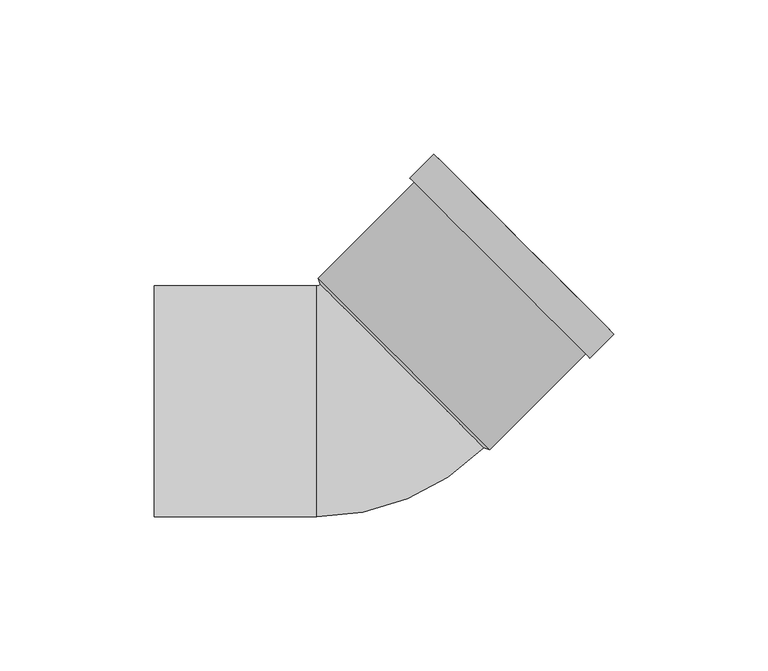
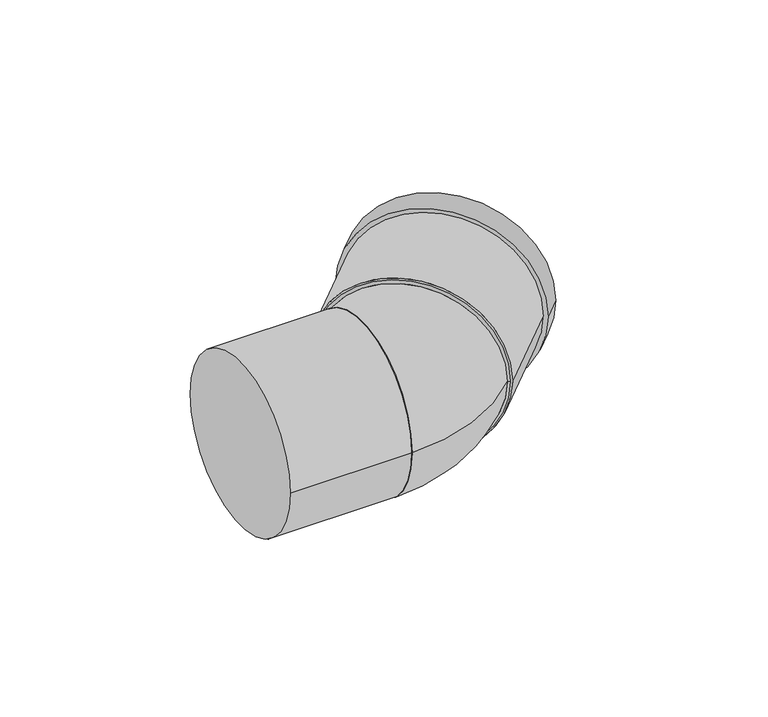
"""IFC4 building model written with IfcOpenShell, lengths in millimetres: pipe fitting geometry, Superdrain HT bend : Superdrain HT Bend."""

from ifc_helpers import new_model, si_unit, point, frame, origin, origin_2d, place, context, project, spatial, polyline, circle_curve, ellipse_curve, trimmed, segment, composite_curve, outline, extrude, source, transform, mapped, element, save
from ifc_brep_helpers import plane_surface, revolved_surface, advanced_brep


def pipe_fitting_4065f76d(model_context):
    return source(origin(), model_context, "Body", "SolidModel", [
        advanced_brep(
        [(37.9716341, -15.0613744, 0.0), (-15.0613744, 37.9716341, 0.0), (-16.2, -37.5, 0.0), (-16.2, 37.5, 0.0)],
        [
            (0, 1, circle_curve(frame((11.4551299, 11.4551299, 0.0), z_axis=(0.7071067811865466, 0.7071067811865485, 0.0), x_axis=(-0.7071067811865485, 0.7071067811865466, 0.0)), 37.5)),
            (1, 0, circle_curve(frame((11.4551299, 11.4551299, 0.0), z_axis=(0.7071067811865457, 0.7071067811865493, 0.0), x_axis=(-0.7071067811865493, 0.7071067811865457, 0.0)), 37.5)),
            (2, 3, circle_curve(frame((-16.2, 0.0, 0.0), z_axis=(-1.0, 0.0, 0.0), x_axis=(0.0, 1.0, 0.0)), 37.5)),
            (3, 2, circle_curve(frame((-16.2, 0.0, 0.0), z_axis=(-1.0, 0.0, 0.0), x_axis=(0.0, 1.0, 0.0)), 37.5)),
            (3, 1, circle_curve(frame((-16.2, 39.1102597, 0.0), z_axis=(0.0, 0.0, 1.0), x_axis=(1.0, 0.0, 0.0)), 1.6102597)),
            (0, 2, circle_curve(frame((-16.2, 39.1102597, 0.0), z_axis=(0.0, 0.0, -1.0), x_axis=(1.0, 0.0, 0.0)), 76.6102597)),
        ],
        [
            plane_surface(frame((11.4551299, 11.4551299, 0.0), z_axis=(0.7071067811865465, 0.7071067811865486, 0.0), x_axis=(0.0, 0.0, -1.0))),
            plane_surface(frame((-16.2, 0.0, 0.0), z_axis=(-1.0, 0.0, 0.0), x_axis=(0.0, 0.0, -1.0))),
            revolved_surface(trimmed(ellipse_curve(frame((22.9102597, 39.1102597, 0.0), z_axis=(0.0, -1.0, 0.0), x_axis=(-1.0, 0.0, 0.0)), 37.5, 37.5), [point((-14.5897403, 39.1102597, 0.0))], [point((60.4102597, 39.1102597, 0.0))], True, "CARTESIAN"), (-16.2, 39.1102597, 0.0), (0.0, 0.0, 1.0)),
            revolved_surface(trimmed(ellipse_curve(frame((22.9102597, 39.1102597, 0.0), z_axis=(0.0, -1.0, 0.0), x_axis=(-1.0, 0.0, 0.0)), 37.5, 37.5), [point((60.4102597, 39.1102597, 0.0))], [point((-14.5897403, 39.1102597, 0.0))], True, "CARTESIAN"), (-16.2, 39.1102597, 0.0), (0.0, 0.0, 1.0)),
        ],
        [
            (0, [[1, 2]]),
            (1, [[3, 4]]),
            (2, [[-4, 5, -1, 6]]),
            (3, [[-3, -6, -2, -5]]),
        ],
    ),
        extrude(outline(composite_curve([segment(trimmed(circle_curve(origin_2d(), 39.375), [point((0.0, 39.375))], [point((0.0, -39.375))], False, "CARTESIAN"), True, "CONTINUOUS"), segment(trimmed(circle_curve(origin_2d(), 39.375), [point((0.0, -39.375))], [point((0.0, 39.375))], False, "CARTESIAN"), True, "CONTINUOUS")], self_intersect=False), holes=[composite_curve([segment(trimmed(circle_curve(origin_2d(), 37.5), [point((0.0, 37.5))], [point((0.0, -37.5))], True, "CARTESIAN"), True, "CONTINUOUS"), segment(trimmed(circle_curve(origin_2d(), 37.5), [point((0.0, -37.5))], [point((0.0, 37.5))], True, "CARTESIAN"), True, "CONTINUOUS")], self_intersect=False)]), frame((12.1622366, 12.1622366, 0.0), z_axis=(0.7071067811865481, 0.707106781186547, 0.0), x_axis=(0.0, 0.0, 1.0)), (0.0, 0.0, 1.0), 55.0),
        extrude(outline(composite_curve([segment(trimmed(circle_curve(origin_2d(), 41.34375), [point((0.0, -41.34375))], [point((0.0, 41.34375))], False, "CARTESIAN"), True, "CONTINUOUS"), segment(trimmed(circle_curve(origin_2d(), 41.34375), [point((0.0, 41.34375))], [point((0.0, -41.34375))], False, "CARTESIAN"), True, "CONTINUOUS")], self_intersect=False), holes=[composite_curve([segment(trimmed(circle_curve(origin_2d(), 37.5), [point((0.0, -37.5))], [point((0.0, 37.5))], True, "CARTESIAN"), True, "CONTINUOUS"), segment(trimmed(circle_curve(origin_2d(), 37.5), [point((0.0, 37.5))], [point((0.0, -37.5))], True, "CARTESIAN"), True, "CONTINUOUS")], self_intersect=False)]), frame((43.274935, 43.274935, 0.0), z_axis=(0.7071067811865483, 0.7071067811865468, 0.0), x_axis=(0.0, 0.0, 1.0)), (0.0, 0.0, 1.0), 11.0),
        advanced_brep(
        [(40.0045661, -15.6800929, 0.0), (-15.6800929, 40.0045661, 0.0), (37.9716341, -15.0613744, 0.0), (-15.0613744, 37.9716341, 0.0)],
        [
            (0, 1, circle_curve(frame((12.1622366, 12.1622366, 0.0), z_axis=(0.7071067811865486, 0.7071067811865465, 0.0), x_axis=(0.7071067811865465, -0.7071067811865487, 0.0)), 39.375)),
            (1, 0, circle_curve(frame((12.1622366, 12.1622366, 0.0), z_axis=(0.7071067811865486, 0.7071067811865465, 0.0), x_axis=(-0.7071067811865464, 0.7071067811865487, 0.0)), 39.375)),
            (2, 3, circle_curve(frame((11.4551299, 11.4551299, 0.0), z_axis=(-0.7071067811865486, -0.7071067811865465, 0.0), x_axis=(-0.7071067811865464, 0.7071067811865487, 0.0)), 37.5)),
            (3, 2, circle_curve(frame((11.4551299, 11.4551299, 0.0), z_axis=(-0.7071067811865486, -0.7071067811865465, 0.0), x_axis=(0.7071067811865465, -0.7071067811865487, 0.0)), 37.5)),
            (3, 1),
            (0, 2),
        ],
        [
            plane_surface(frame((12.1622366, 12.1622366, 0.0), z_axis=(0.7071067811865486, 0.7071067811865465, 0.0), x_axis=(0.0, 0.0, -1.0))),
            plane_surface(frame((11.4551299, 11.4551299, 0.0), z_axis=(-0.7071067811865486, -0.7071067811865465, 0.0), x_axis=(0.0, 0.0, -1.0))),
            revolved_surface(polyline([(-15.061374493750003, 37.971634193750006, 0.0), (-15.68009290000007, 40.004566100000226, 0.0)]), (-2.6870058, -2.6870058, 0.0), (0.7071067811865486, 0.7071067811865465, 0.0)),
            revolved_surface(polyline([(37.971634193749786, -15.061374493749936, 0.0), (40.0045661, -15.6800929, 0.0)]), (-2.6870058, -2.6870058, 0.0), (0.7071067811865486, 0.7071067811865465, 0.0)),
        ],
        [
            (0, [[1, 2]]),
            (1, [[3, 4]]),
            (2, [[-4, 5, -1, 6]]),
            (3, [[-3, -6, -2, -5]]),
        ],
    ),
        extrude(outline(composite_curve([segment(trimmed(circle_curve(origin_2d(), 37.5), [point((-37.5, 0.0))], [point((37.5, 0.0))], False, "CARTESIAN"), True, "CONTINUOUS"), segment(trimmed(circle_curve(origin_2d(), 37.5), [point((37.5, 0.0))], [point((-37.5, 0.0))], False, "CARTESIAN"), True, "CONTINUOUS")], self_intersect=False)), frame((-69.0, 0.0, 0.0), z_axis=(1.0, 0.0, 0.0), x_axis=(0.0, 1.0, 0.0)), (0.0, 0.0, 1.0), 52.8),
    ])


if __name__ == "__main__":
    model = new_model("IFC4")
    model_context = context("Model", 3, world=origin())
    ifc_project = project(units=[si_unit("LENGTHUNIT", "METRE", prefix="MILLI")], contexts=[model_context])
    site = spatial("IfcSite", under=ifc_project)
    building = spatial("IfcBuilding", under=site)
    placement = place(None, origin())
    pipe_fitting_shape = pipe_fitting_4065f76d(model_context)
    element("IfcPipeFitting", 1, ObjectType="Superdrain HT bend : Superdrain HT Bend", at=placement, inside=building, context=model_context, shape_type="MappedRepresentation", body=[
        mapped(pipe_fitting_shape, transform((0.0, 0.0, 0.0), x_axis=(1.0, 0.0, 0.0), y_axis=(0.0, 1.0, 0.0), z_axis=(0.0, 0.0, 1.0))),
    ])
    save(model, "model.ifc")
